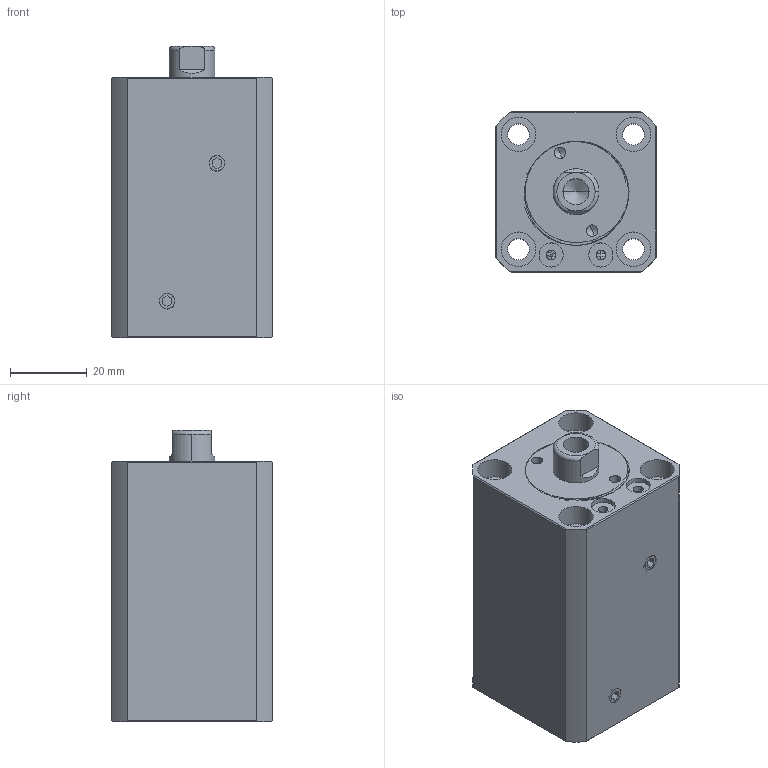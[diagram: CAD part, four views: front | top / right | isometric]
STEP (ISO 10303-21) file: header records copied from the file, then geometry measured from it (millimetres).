
FILE_DESCRIPTION (( 'STEP AP214' ), '1' );
FILE_NAME ('chtb-sdma20x25n_asm.STEP', '2018-05-18T03:57:27', ( '' ), ( '' ), 'SwSTEP 2.0', 'SolidWorks 2016', '' );
FILE_SCHEMA (( 'AUTOMOTIVE_DESIGN' ));
Length unit declared in the file: millimetre
Products named in the file (5): socket set screw flat point_iso_ISO 4026 - M5 x 5-N; QG_3; CHTB-SDMA20X25NHSG; CHTB-SDMA20X25NBT; chtb-sdma20x25n_asm
Assembly tree (6 placements, depth 2):
  chtb-sdma20x25n_asm
    CHTB-SDMA20X25NBT
    CHTB-SDMA20X25NHSG
    QG_3
    socket set screw flat point_iso_ISO 4026 - M5 x 5-N  x3
Bounding box: 42 x 42 x 76 mm (x, y, z)
Volume: 102854.2 mm3; surface area: 33393.6 mm2
Topology: 6 solids, 6 shells, 247 faces, 634 edges, 416 vertices
Faces by surface type: cylinder 113, plane 70, torus 25, bspline 21, cone 18
Entity records: 12050 total; most frequent: CARTESIAN_POINT 6743, ORIENTED_EDGE 1128, DIRECTION 1002, EDGE_CURVE 564, AXIS2_PLACEMENT_3D 416, VERTEX_POINT 376, EDGE_LOOP 256, ADVANCED_FACE 217
